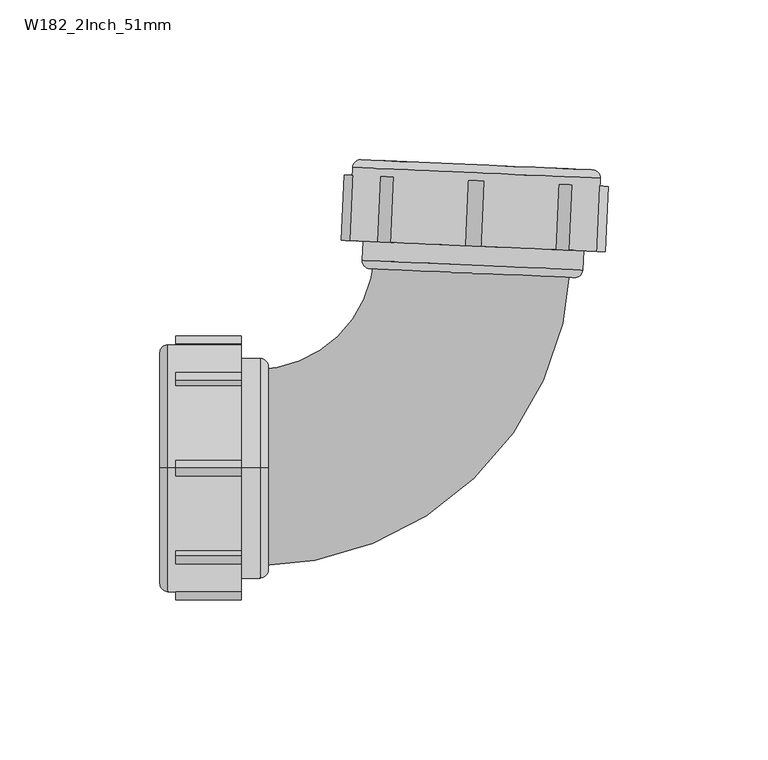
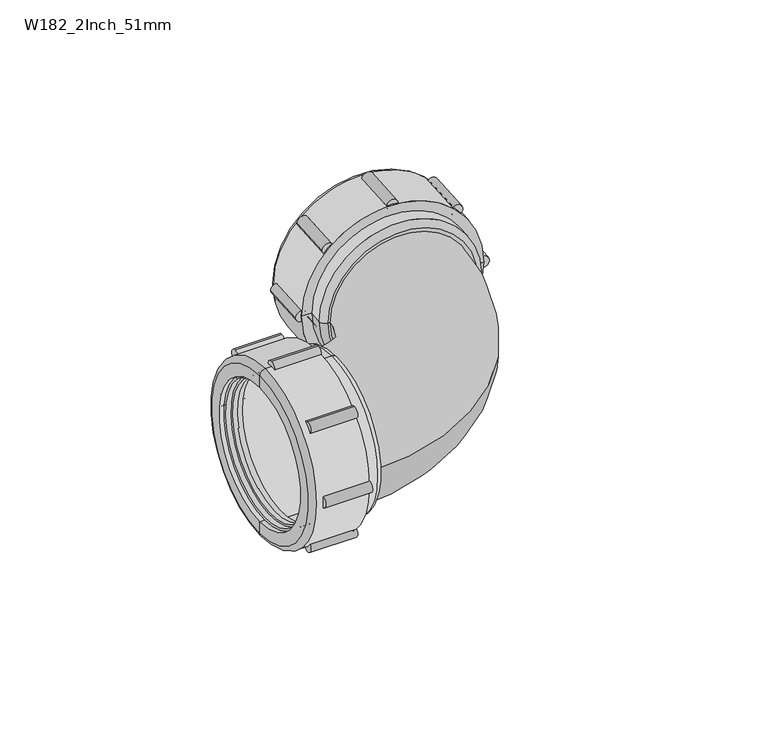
"""IFC4 building model written with IfcOpenShell, lengths in millimetres: pipe fitting geometry, Durapipe_PipeFitting_VulcatheneMechanical_92.5SweepBend_W18 : W182_2Inch_51mm."""

from ifc_helpers import new_model, si_unit, point, frame, frame_2d, origin, place, context, project, spatial, polyline, circle_curve, ellipse_curve, trimmed, segment, composite_curve, outline, extrude, source, transform, mapped, element, save
from ifc_brep_helpers import plane_surface, cylinder_surface, revolved_surface, advanced_brep


def w182_2inch_51mm_1cf541ef(model_context):
    return source(origin(), model_context, "Body", "SolidModel", [
        advanced_brep(
        [(-18.775034, 93.5910594, 22.839549), (26.8605877, 91.5985652, -22.839549), (25.3064334, 91.666421, -21.2839141), (-17.2208797, 93.5232036, 21.2839141), (-18.524799, 87.9747989, 22.3445743), (26.1218154, 86.0254856, -22.3445743), (-18.1620058, 86.5576252, 21.9203102), (25.636888, 84.6453242, -21.9203102), (25.6979552, 86.0439917, -21.9203102), (-18.1009387, 87.9562928, 21.9203102), (-17.1729986, 86.5144443, 20.9303607), (24.6478808, 84.6885052, -20.9303607), (-17.072674, 88.8122552, 20.9303607), (24.7482054, 86.9863161, -20.9303607), (-16.7901005, 88.7999177, 20.647518), (24.4656318, 86.9986536, -20.647518), (-17.3299282, 91.025583, 21.2839141), (25.1973849, 89.1688004, -21.2839141), (24.5615945, 89.1965597, -20.647518), (-16.6941378, 90.9978238, 20.647518)],
        [
            (0, 1, circle_curve(frame((4.0427768, 92.5948123, 0.0), z_axis=(0.043619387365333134, 0.9990482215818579, 0.0), x_axis=(0.7064337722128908, -0.030843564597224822, -0.7071067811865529)), 32.3)),
            (1, 2),
            (2, 3, circle_curve(frame((4.0427768, 92.5948123, 0.0), z_axis=(-0.043619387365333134, -0.9990482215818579, 0.0), x_axis=(0.7064337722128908, -0.030843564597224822, -0.7071067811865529)), 30.1)),
            (3, 0),
            (1, 0, circle_curve(frame((4.0427768, 92.5948123, 0.0), z_axis=(0.043619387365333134, 0.9990482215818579, 0.0), x_axis=(0.7064337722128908, -0.030843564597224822, -0.7071067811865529)), 32.3)),
            (3, 2, circle_curve(frame((4.0427768, 92.5948123, 0.0), z_axis=(-0.043619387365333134, -0.9990482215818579, 0.0), x_axis=(0.7064337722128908, -0.030843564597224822, -0.7071067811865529)), 30.1)),
            (4, 5, circle_curve(frame((3.7985082, 87.0001423, 0.0), z_axis=(0.043619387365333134, 0.9990482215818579, 0.0), x_axis=(0.7064337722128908, -0.030843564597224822, -0.7071067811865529)), 31.6)),
            (5, 1),
            (0, 4),
            (5, 4, circle_curve(frame((3.7985082, 87.0001423, 0.0), z_axis=(0.043619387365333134, 0.9990482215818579, 0.0), x_axis=(0.7064337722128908, -0.030843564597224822, -0.7071067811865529)), 31.6)),
            (6, 7, circle_curve(frame((3.7374411, 85.6014747, 0.0), z_axis=(0.043619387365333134, 0.9990482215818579, 0.0), x_axis=(0.7064337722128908, -0.030843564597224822, -0.7071067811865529)), 31.0)),
            (7, 8),
            (8, 9, circle_curve(frame((3.7985082, 87.0001423, 0.0), z_axis=(-0.043619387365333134, -0.9990482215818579, 0.0), x_axis=(0.7064337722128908, -0.030843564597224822, -0.7071067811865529)), 31.0)),
            (9, 6),
            (7, 6, circle_curve(frame((3.7374411, 85.6014747, 0.0), z_axis=(0.043619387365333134, 0.9990482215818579, 0.0), x_axis=(0.7064337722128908, -0.030843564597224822, -0.7071067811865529)), 31.0)),
            (9, 8, circle_curve(frame((3.7985082, 87.0001423, 0.0), z_axis=(-0.043619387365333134, -0.9990482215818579, 0.0), x_axis=(0.7064337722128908, -0.030843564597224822, -0.7071067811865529)), 31.0)),
            (6, 10),
            (10, 11, circle_curve(frame((3.7374411, 85.6014747, 0.0), z_axis=(0.043619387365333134, 0.9990482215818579, 0.0), x_axis=(0.7064337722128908, -0.030843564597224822, -0.7071067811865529)), 29.6)),
            (11, 7),
            (11, 10, circle_curve(frame((3.7374411, 85.6014747, 0.0), z_axis=(0.043619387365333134, 0.9990482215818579, 0.0), x_axis=(0.7064337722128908, -0.030843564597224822, -0.7071067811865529)), 29.6)),
            (10, 12),
            (12, 13, circle_curve(frame((3.8377657, 87.8992857, 0.0), z_axis=(0.043619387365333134, 0.9990482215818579, 0.0), x_axis=(0.7064337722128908, -0.030843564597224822, -0.7071067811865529)), 29.6)),
            (13, 11),
            (13, 12, circle_curve(frame((3.8377657, 87.8992857, 0.0), z_axis=(0.043619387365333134, 0.9990482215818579, 0.0), x_axis=(0.7064337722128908, -0.030843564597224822, -0.7071067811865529)), 29.6)),
            (12, 14),
            (14, 15, circle_curve(frame((3.8377657, 87.8992857, 0.0), z_axis=(0.043619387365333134, 0.9990482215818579, 0.0), x_axis=(0.7064337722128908, -0.030843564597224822, -0.7071067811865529)), 29.2)),
            (15, 13),
            (15, 14, circle_curve(frame((3.8377657, 87.8992857, 0.0), z_axis=(0.043619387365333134, 0.9990482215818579, 0.0), x_axis=(0.7064337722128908, -0.030843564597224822, -0.7071067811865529)), 29.2)),
            (16, 17, circle_curve(frame((3.9337283, 90.0971917, 0.0), z_axis=(0.043619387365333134, 0.9990482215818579, 0.0), x_axis=(0.7064337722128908, -0.030843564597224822, -0.7071067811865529)), 30.1)),
            (17, 18),
            (18, 19, circle_curve(frame((3.9337283, 90.0971917, 0.0), z_axis=(-0.043619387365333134, -0.9990482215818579, 0.0), x_axis=(0.7064337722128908, -0.030843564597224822, -0.7071067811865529)), 29.2)),
            (19, 16),
            (17, 16, circle_curve(frame((3.9337283, 90.0971917, 0.0), z_axis=(0.043619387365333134, 0.9990482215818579, 0.0), x_axis=(0.7064337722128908, -0.030843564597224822, -0.7071067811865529)), 30.1)),
            (19, 18, circle_curve(frame((3.9337283, 90.0971917, 0.0), z_axis=(-0.043619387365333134, -0.9990482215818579, 0.0), x_axis=(0.7064337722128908, -0.030843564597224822, -0.7071067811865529)), 29.2)),
            (2, 17),
            (16, 3),
            (14, 19),
            (18, 15),
            (4, 9),
            (8, 5),
        ],
        [
            plane_surface(frame((4.0427768, 92.5948123, 0.0), z_axis=(0.043619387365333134, 0.9990482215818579, 0.0), x_axis=(0.7064337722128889, -0.03084356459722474, -0.707106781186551))),
            revolved_surface(polyline([(26.8605877, 91.5985652, -22.839549), (26.1218154, 86.0254856, -22.3445743)]), (4.2608737, 97.5900534, 0.0), (-0.04361938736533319, -0.9990482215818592, 0.0)),
            cylinder_surface(frame((3.6471204, 83.5327898, 0.0), z_axis=(-0.04361938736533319, -0.9990482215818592, 0.0), x_axis=(0.7064337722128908, -0.030843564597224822, -0.7071067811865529)), 31.0),
            plane_surface(frame((3.7374411, 85.6014747, 0.0), z_axis=(-0.043619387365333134, -0.9990482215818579, 0.0), x_axis=(0.7064337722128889, -0.03084356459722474, -0.707106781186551))),
            revolved_surface(polyline([(24.647880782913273, 84.68850518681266, -20.930360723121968), (24.748205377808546, 86.98631618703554, -20.930360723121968)]), (3.585079, 82.1118083, 0.0), (-0.04361938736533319, -0.9990482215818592, 0.0)),
            plane_surface(frame((3.8377657, 87.8992857, 0.0), z_axis=(-0.043619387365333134, -0.9990482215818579, 0.0), x_axis=(0.7064337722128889, -0.03084356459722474, -0.707106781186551))),
            plane_surface(frame((3.9337283, 90.0971917, 0.0), z_axis=(0.043619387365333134, 0.9990482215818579, 0.0), x_axis=(0.7064337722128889, -0.03084356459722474, -0.707106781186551))),
            revolved_surface(polyline([(25.197384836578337, 89.16880040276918, -21.283914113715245), (25.306433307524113, 91.66642101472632, -21.283914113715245)]), (4.2608737, 97.5900534, 0.0), (-0.04361938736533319, -0.9990482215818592, 0.0)),
            revolved_surface(polyline([(24.46563186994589, 86.99865352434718, -20.647518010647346), (24.561594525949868, 89.19655969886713, -20.647518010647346)]), (4.1110932, 94.1595141, 0.0), (-0.04361938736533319, -0.9990482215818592, 0.0)),
            plane_surface(frame((3.7985082, 87.0001423, 0.0), z_axis=(-0.043619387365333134, -0.9990482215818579, 0.0), x_axis=(0.7064337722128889, -0.03084356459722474, -0.707106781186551))),
        ],
        [
            (0, [[1, 2, 3, 4]]),
            (0, [[-2, 5, -4, 6]]),
            (1, [[7, 8, -1, 9]]),
            (1, [[10, -9, -5, -8]]),
            (2, [[11, 12, 13, 14]]),
            (2, [[-12, 15, -14, 16]]),
            (3, [[-11, 17, 18, 19]]),
            (3, [[-15, -19, 20, -17]]),
            (4, [[21, 22, 23, -18]]),
            (4, [[-21, -20, -23, 24]]),
            (5, [[-22, 25, 26, 27]]),
            (5, [[-24, -27, 28, -25]]),
            (6, [[29, 30, 31, 32]]),
            (6, [[33, -32, 34, -30]]),
            (7, [[-3, 35, -29, 36]]),
            (7, [[-6, -36, -33, -35]]),
            (8, [[37, -31, 38, -26]]),
            (8, [[-37, -28, -38, -34]]),
            (9, [[-7, 39, -13, 40]]),
            (9, [[-10, -40, -16, -39]]),
        ],
    ),
        advanced_brep(
        [(-35.727902, 71.2092306, 0.0), (41.79824, 67.8243661, 0.0), (42.7971239, 90.7025704, 0.0), (-34.7290181, 94.0874349, 0.0), (-31.4319947, 71.0216672, 0.0), (37.5023326, 68.0119295, 0.0), (-32.122349, 96.476007, 0.0), (40.4085518, 93.3092394, 0.0), (35.1135963, 93.5404222, 0.0), (-26.8273935, 96.2448242, 0.0), (-28.9258145, 94.0342521, 0.0), (37.0113681, 91.1553725, 0.0), (35.8205589, 63.8813561, 0.0), (-30.1166238, 66.7602356, 0.0), (-26.9277181, 93.9470133, 0.0), (35.0132717, 91.2426113, 0.0), (-31.693711, 65.0273779, 0.0), (37.2406163, 62.0176402, 0.0), (-29.3051389, 62.4207089, 0.0), (34.6339473, 59.6290681, 0.0), (2.6644042, 61.0248885, 0.0), (2.8519675, 65.3207958, 0.0)],
        [
            (0, 1, circle_curve(frame((3.035169, 69.5167984, 0.0), z_axis=(0.0436193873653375, 0.9990482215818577, 0.0), x_axis=(0.9990482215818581, -0.04361938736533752, 0.0)), 38.8)),
            (1, 2),
            (2, 3, circle_curve(frame((4.0340529, 92.3950026, 0.0), z_axis=(-0.0436193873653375, -0.9990482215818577, 0.0), x_axis=(0.9990482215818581, -0.04361938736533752, 0.0)), 38.8)),
            (3, 0),
            (1, 0, circle_curve(frame((3.035169, 69.5167984, 0.0), z_axis=(0.0436193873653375, 0.9990482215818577, 0.0), x_axis=(0.9990482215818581, -0.04361938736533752, 0.0)), 38.8)),
            (3, 2, circle_curve(frame((4.0340529, 92.3950026, 0.0), z_axis=(-0.0436193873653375, -0.9990482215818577, 0.0), x_axis=(0.9990482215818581, -0.04361938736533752, 0.0)), 38.8)),
            (4, 5, circle_curve(frame((3.035169, 69.5167984, 0.0), z_axis=(0.0436193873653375, 0.9990482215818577, 0.0), x_axis=(0.9990482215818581, -0.04361938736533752, 0.0)), 34.5)),
            (5, 1),
            (0, 4),
            (5, 4, circle_curve(frame((3.035169, 69.5167984, 0.0), z_axis=(0.0436193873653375, 0.9990482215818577, 0.0), x_axis=(0.9990482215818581, -0.04361938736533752, 0.0)), 34.5)),
            (6, 7, circle_curve(frame((4.1431014, 94.8926232, 0.0), z_axis=(0.0436193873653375, 0.9990482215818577, 0.0), x_axis=(0.9990482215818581, -0.04361938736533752, 0.0)), 36.3)),
            (7, 8),
            (8, 9, circle_curve(frame((4.1431014, 94.8926232, 0.0), z_axis=(-0.0436193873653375, -0.9990482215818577, 0.0), x_axis=(0.9990482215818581, -0.04361938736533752, 0.0)), 31.0)),
            (9, 6),
            (7, 6, circle_curve(frame((4.1431014, 94.8926232, 0.0), z_axis=(0.0436193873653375, 0.9990482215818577, 0.0), x_axis=(0.9990482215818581, -0.04361938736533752, 0.0)), 36.3)),
            (9, 8, circle_curve(frame((4.1431014, 94.8926232, 0.0), z_axis=(-0.0436193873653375, -0.9990482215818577, 0.0), x_axis=(0.9990482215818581, -0.04361938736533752, 0.0)), 31.0)),
            (2, 7, circle_curve(frame((40.2995034, 90.8116189, 0.0), z_axis=(0.0, 0.0, 1.0000000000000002), x_axis=(0.043619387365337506, 0.9990482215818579, 0.0)), 2.5)),
            (6, 3, circle_curve(frame((-32.2313975, 93.9783864, 0.0), z_axis=(0.0, 0.0, 1.0000000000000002), x_axis=(0.043619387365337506, 0.9990482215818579, 0.0)), 2.5)),
            (10, 11, circle_curve(frame((4.0427768, 92.5948123, 0.0), z_axis=(0.0436193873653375, 0.9990482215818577, 0.0), x_axis=(0.9990482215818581, -0.04361938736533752, 0.0)), 33.0)),
            (11, 12),
            (12, 13, circle_curve(frame((2.8519675, 65.3207958, 0.0), z_axis=(-0.0436193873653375, -0.9990482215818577, 0.0), x_axis=(0.9990482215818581, -0.04361938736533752, 0.0)), 33.0)),
            (13, 10),
            (11, 10, circle_curve(frame((4.0427768, 92.5948123, 0.0), z_axis=(0.0436193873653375, 0.9990482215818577, 0.0), x_axis=(0.9990482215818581, -0.04361938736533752, 0.0)), 33.0)),
            (13, 12, circle_curve(frame((2.8519675, 65.3207958, 0.0), z_axis=(-0.0436193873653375, -0.9990482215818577, 0.0), x_axis=(0.9990482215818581, -0.04361938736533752, 0.0)), 33.0)),
            (14, 15, circle_curve(frame((4.0427768, 92.5948123, 0.0), z_axis=(0.0436193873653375, 0.9990482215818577, 0.0), x_axis=(0.9990482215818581, -0.04361938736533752, 0.0)), 31.0)),
            (15, 11),
            (10, 14),
            (15, 14, circle_curve(frame((4.0427768, 92.5948123, 0.0), z_axis=(0.0436193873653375, 0.9990482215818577, 0.0), x_axis=(0.9990482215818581, -0.04361938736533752, 0.0)), 31.0)),
            (8, 15),
            (14, 9),
            (16, 17, circle_curve(frame((2.7734526, 63.522509, 0.0), z_axis=(0.0436193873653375, 0.9990482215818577, 0.0), x_axis=(0.9990482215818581, -0.04361938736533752, 0.0)), 34.5)),
            (17, 5),
            (4, 16),
            (17, 16, circle_curve(frame((2.7734526, 63.522509, 0.0), z_axis=(0.0436193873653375, 0.9990482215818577, 0.0), x_axis=(0.9990482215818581, -0.04361938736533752, 0.0)), 34.5)),
            (18, 19, circle_curve(frame((2.6644042, 61.0248885, 0.0), z_axis=(0.0436193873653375, 0.9990482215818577, 0.0), x_axis=(0.9990482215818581, -0.04361938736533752, 0.0)), 32.0)),
            (19, 17, circle_curve(frame((34.7429957, 62.1266886, 0.0), z_axis=(0.0, 0.0, 1.0000000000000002), x_axis=(0.043619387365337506, 0.9990482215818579, 0.0)), 2.5)),
            (16, 18, circle_curve(frame((-29.1960904, 64.9183294, 0.0), z_axis=(0.0, 0.0, 1.0000000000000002), x_axis=(0.043619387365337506, 0.9990482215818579, 0.0)), 2.5)),
            (19, 18, circle_curve(frame((2.6644042, 61.0248885, 0.0), z_axis=(0.0436193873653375, 0.9990482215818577, 0.0), x_axis=(0.9990482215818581, -0.04361938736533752, 0.0)), 32.0)),
            (20, 19),
            (18, 20),
            (12, 21),
            (21, 13),
        ],
        [
            cylinder_surface(frame((72.2243205, 1654.2089041, 0.0), z_axis=(-0.043619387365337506, -0.9990482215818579, 0.0), x_axis=(0.9990482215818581, -0.04361938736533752, 0.0)), 38.8),
            plane_surface(frame((3.035169, 69.5167984, 0.0), z_axis=(-0.0436193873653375, -0.9990482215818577, 0.0), x_axis=(0.9990482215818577, -0.0436193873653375, 0.0))),
            plane_surface(frame((4.1431014, 94.8926232, 0.0), z_axis=(0.0436193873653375, 0.9990482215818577, 0.0), x_axis=(0.9990482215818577, -0.0436193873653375, 0.0))),
            revolved_surface(trimmed(ellipse_curve(frame((40.2995034, 90.8116189, 0.0), z_axis=(0.0, 0.0, -1.0000000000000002), x_axis=(0.043619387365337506, 0.9990482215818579, 0.0)), 2.5, 2.5), [point((40.4085518, 93.3092394, 0.0))], [point((42.7971239, 90.7025704, 0.0))], True, "CARTESIAN"), (72.2243205, 1654.2089041, 0.0), (-0.043619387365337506, -0.9990482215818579, 0.0)),
            revolved_surface(polyline([(35.82055882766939, 63.88135601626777, 0.0), (37.011368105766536, 91.15537253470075, 0.0)]), (72.2243205, 1654.2089041, 0.0), (-0.043619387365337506, -0.9990482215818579, 0.0)),
            plane_surface(frame((4.0427768, 92.5948123, 0.0), z_axis=(-0.0436193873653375, -0.9990482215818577, 0.0), x_axis=(0.9990482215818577, -0.0436193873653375, 0.0))),
            revolved_surface(polyline([(35.01327166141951, 91.24261128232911, 0.0), (35.11359625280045, 93.5404222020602, 0.0)]), (72.2243205, 1654.2089041, 0.0), (-0.043619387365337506, -0.9990482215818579, 0.0)),
            cylinder_surface(frame((72.2243205, 1654.2089041, 0.0), z_axis=(-0.043619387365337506, -0.9990482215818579, 0.0), x_axis=(0.9990482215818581, -0.04361938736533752, 0.0)), 34.5),
            revolved_surface(trimmed(ellipse_curve(frame((34.7429957, 62.1266886, 0.0), z_axis=(0.0, 0.0, -1.0000000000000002), x_axis=(0.043619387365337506, 0.9990482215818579, 0.0)), 2.5, 2.5), [point((37.2406163, 62.0176402, 0.0))], [point((34.6339473, 59.6290681, 0.0))], True, "CARTESIAN"), (72.2243205, 1654.2089041, 0.0), (-0.043619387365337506, -0.9990482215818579, 0.0)),
            plane_surface(frame((2.6644042, 61.0248885, 0.0), z_axis=(-0.0436193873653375, -0.9990482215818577, 0.0), x_axis=(0.9990482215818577, -0.0436193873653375, 0.0))),
            plane_surface(frame((2.8519675, 65.3207958, 0.0), z_axis=(0.0436193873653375, 0.9990482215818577, 0.0), x_axis=(0.9990482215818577, -0.0436193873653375, 0.0))),
        ],
        [
            (0, [[1, 2, 3, 4]]),
            (0, [[5, -4, 6, -2]]),
            (1, [[7, 8, -1, 9]]),
            (1, [[10, -9, -5, -8]]),
            (2, [[11, 12, 13, 14]]),
            (2, [[15, -14, 16, -12]]),
            (3, [[-3, 17, -11, 18]]),
            (3, [[-6, -18, -15, -17]]),
            (4, [[19, 20, 21, 22]]),
            (4, [[23, -22, 24, -20]]),
            (5, [[25, 26, -19, 27]]),
            (5, [[28, -27, -23, -26]]),
            (6, [[-13, 29, -25, 30]]),
            (6, [[-16, -30, -28, -29]]),
            (7, [[31, 32, -7, 33]]),
            (7, [[34, -33, -10, -32]]),
            (8, [[35, 36, -31, 37]]),
            (8, [[38, -37, -34, -36]]),
            (9, [[39, -35, 40]]),
            (9, [[-40, -38, -39]]),
            (10, [[-21, 41, 42]]),
            (10, [[-24, -42, -41]]),
        ],
    ),
        extrude(outline(composite_curve([segment(trimmed(circle_curve(frame_2d((0.0, -2.4999999)), 2.5), [point((0.0, -5.0))], [point((0.0, 0.0))], False, "CARTESIAN"), True, "CONTINUOUS"), segment(trimmed(circle_curve(frame_2d((0.0, -2.4999999)), 2.5), [point((0.0, 0.0))], [point((0.0, -5.0))], False, "CARTESIAN"), True, "CONTINUOUS")], self_intersect=False)), frame((5.5327895, 69.4077499, -38.8), z_axis=(0.0436193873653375, 0.9990482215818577, 0.0), x_axis=(0.0, 0.0, 1.0)), (0.0, 0.0, 1.0), 20.4),
        extrude(outline(composite_curve([segment(trimmed(circle_curve(frame_2d((11.3642569, 24.9357431)), 2.5), [point((11.3642569, 22.4357432))], [point((11.3642569, 27.4357431))], False, "CARTESIAN"), True, "CONTINUOUS"), segment(trimmed(circle_curve(frame_2d((11.3642569, 24.9357431)), 2.5), [point((11.3642569, 27.4357431))], [point((11.3642569, 22.4357432))], False, "CARTESIAN"), True, "CONTINUOUS")], self_intersect=False)), frame((5.5327895, 69.4077499, -38.8), z_axis=(0.0436193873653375, 0.9990482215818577, 0.0), x_axis=(0.0, 0.0, 1.0)), (0.0, 0.0, 1.0), 20.4),
        extrude(outline(composite_curve([segment(trimmed(circle_curve(frame_2d((38.8, 36.3000001)), 2.5), [point((38.8, 33.8))], [point((38.8, 38.8))], False, "CARTESIAN"), True, "CONTINUOUS"), segment(trimmed(circle_curve(frame_2d((38.8, 36.3000001)), 2.5), [point((38.8, 38.8))], [point((38.8, 33.8))], False, "CARTESIAN"), True, "CONTINUOUS")], self_intersect=False)), frame((5.5327895, 69.4077499, -38.8), z_axis=(0.0436193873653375, 0.9990482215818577, 0.0), x_axis=(0.0, 0.0, 1.0)), (0.0, 0.0, 1.0), 20.4),
        extrude(outline(composite_curve([segment(trimmed(circle_curve(frame_2d((66.2357431, 24.9357431)), 2.5), [point((66.2357431, 22.4357432))], [point((66.2357431, 27.4357431))], False, "CARTESIAN"), True, "CONTINUOUS"), segment(trimmed(circle_curve(frame_2d((66.2357431, 24.9357431)), 2.5), [point((66.2357431, 27.4357431))], [point((66.2357431, 22.4357432))], False, "CARTESIAN"), True, "CONTINUOUS")], self_intersect=False)), frame((5.5327895, 69.4077499, -38.8), z_axis=(0.0436193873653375, 0.9990482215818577, 0.0), x_axis=(0.0, 0.0, 1.0)), (0.0, 0.0, 1.0), 20.4),
        extrude(outline(composite_curve([segment(trimmed(circle_curve(frame_2d((77.6, -2.4999999)), 2.5), [point((77.6, -5.0))], [point((77.6, 0.0))], False, "CARTESIAN"), True, "CONTINUOUS"), segment(trimmed(circle_curve(frame_2d((77.6, -2.4999999)), 2.5), [point((77.6, 0.0))], [point((77.6, -5.0))], False, "CARTESIAN"), True, "CONTINUOUS")], self_intersect=False)), frame((5.5327895, 69.4077499, -38.8), z_axis=(0.0436193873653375, 0.9990482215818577, 0.0), x_axis=(0.0, 0.0, 1.0)), (0.0, 0.0, 1.0), 20.4),
        extrude(outline(composite_curve([segment(trimmed(circle_curve(frame_2d((66.2357431, -29.9357431)), 2.5), [point((66.2357431, -32.4357431))], [point((66.2357431, -27.435743))], False, "CARTESIAN"), True, "CONTINUOUS"), segment(trimmed(circle_curve(frame_2d((66.2357431, -29.9357431)), 2.5), [point((66.2357431, -27.435743))], [point((66.2357431, -32.4357431))], False, "CARTESIAN"), True, "CONTINUOUS")], self_intersect=False)), frame((5.5327895, 69.4077499, -38.8), z_axis=(0.0436193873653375, 0.9990482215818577, 0.0), x_axis=(0.0, 0.0, 1.0)), (0.0, 0.0, 1.0), 20.4),
        extrude(outline(composite_curve([segment(trimmed(circle_curve(frame_2d((38.8, -41.2999999)), 2.5), [point((38.8, -43.8))], [point((38.8, -38.8))], False, "CARTESIAN"), True, "CONTINUOUS"), segment(trimmed(circle_curve(frame_2d((38.8, -41.2999999)), 2.5), [point((38.8, -38.8))], [point((38.8, -43.8))], False, "CARTESIAN"), True, "CONTINUOUS")], self_intersect=False)), frame((5.5327895, 69.4077499, -38.8), z_axis=(0.0436193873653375, 0.9990482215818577, 0.0), x_axis=(0.0, 0.0, 1.0)), (0.0, 0.0, 1.0), 20.4),
        extrude(outline(composite_curve([segment(trimmed(circle_curve(frame_2d((11.3642569, -29.9357431)), 2.5), [point((11.3642569, -32.4357431))], [point((11.3642569, -27.435743))], False, "CARTESIAN"), True, "CONTINUOUS"), segment(trimmed(circle_curve(frame_2d((11.3642569, -29.9357431)), 2.5), [point((11.3642569, -27.435743))], [point((11.3642569, -32.4357431))], False, "CARTESIAN"), True, "CONTINUOUS")], self_intersect=False)), frame((5.5327895, 69.4077499, -38.8), z_axis=(0.0436193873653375, 0.9990482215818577, 0.0), x_axis=(0.0, 0.0, 1.0)), (0.0, 0.0, 1.0), 20.4),
        advanced_brep(
        [(-92.683026, -22.839549, -22.839549), (-92.683026, 22.839549, 22.839549), (-92.683026, 21.2839141, 21.2839141), (-92.683026, -21.2839141, -21.2839141), (-87.083026, -22.3445743, -22.3445743), (-87.083026, 22.3445743, 22.3445743), (-85.683026, -21.9203102, -21.9203102), (-85.683026, 21.9203102, 21.9203102), (-87.083026, 21.9203102, 21.9203102), (-87.083026, -21.9203102, -21.9203102), (-85.683026, -20.9303607, -20.9303607), (-85.683026, 20.9303607, 20.9303607), (-87.983026, -20.9303607, -20.9303607), (-87.983026, 20.9303607, 20.9303607), (-87.983026, -20.647518, -20.647518), (-87.983026, 20.647518, 20.647518), (-90.183026, -21.2839141, -21.2839141), (-90.183026, 21.2839141, 21.2839141), (-90.183026, 20.647518, 20.647518), (-90.183026, -20.647518, -20.647518)],
        [
            (0, 1, circle_curve(frame((-92.683026, 0.0, 0.0), z_axis=(-1.0, 0.0, 0.0), x_axis=(0.0, 0.7071067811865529, 0.7071067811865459)), 32.3)),
            (1, 2),
            (2, 3, circle_curve(frame((-92.683026, 0.0, 0.0), z_axis=(1.0, 0.0, 0.0), x_axis=(0.0, 0.7071067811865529, 0.7071067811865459)), 30.1)),
            (3, 0),
            (1, 0, circle_curve(frame((-92.683026, 0.0, 0.0), z_axis=(-1.0, 0.0, 0.0), x_axis=(0.0, 0.7071067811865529, 0.7071067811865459)), 32.3)),
            (3, 2, circle_curve(frame((-92.683026, 0.0, 0.0), z_axis=(1.0, 0.0, 0.0), x_axis=(0.0, 0.7071067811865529, 0.7071067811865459)), 30.1)),
            (4, 5, circle_curve(frame((-87.083026, 0.0, 0.0), z_axis=(-1.0, 0.0, 0.0), x_axis=(0.0, 0.7071067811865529, 0.7071067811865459)), 31.6)),
            (5, 1),
            (0, 4),
            (5, 4, circle_curve(frame((-87.083026, 0.0, 0.0), z_axis=(-1.0, 0.0, 0.0), x_axis=(0.0, 0.7071067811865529, 0.7071067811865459)), 31.6)),
            (6, 7, circle_curve(frame((-85.683026, 0.0, 0.0), z_axis=(-1.0, 0.0, 0.0), x_axis=(0.0, 0.7071067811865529, 0.7071067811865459)), 31.0)),
            (7, 8),
            (8, 9, circle_curve(frame((-87.083026, 0.0, 0.0), z_axis=(1.0, 0.0, 0.0), x_axis=(0.0, 0.7071067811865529, 0.7071067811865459)), 31.0)),
            (9, 6),
            (7, 6, circle_curve(frame((-85.683026, 0.0, 0.0), z_axis=(-1.0, 0.0, 0.0), x_axis=(0.0, 0.7071067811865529, 0.7071067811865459)), 31.0)),
            (9, 8, circle_curve(frame((-87.083026, 0.0, 0.0), z_axis=(1.0, 0.0, 0.0), x_axis=(0.0, 0.7071067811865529, 0.7071067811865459)), 31.0)),
            (6, 10),
            (10, 11, circle_curve(frame((-85.683026, 0.0, 0.0), z_axis=(-1.0, 0.0, 0.0), x_axis=(0.0, 0.7071067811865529, 0.7071067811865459)), 29.6)),
            (11, 7),
            (11, 10, circle_curve(frame((-85.683026, 0.0, 0.0), z_axis=(-1.0, 0.0, 0.0), x_axis=(0.0, 0.7071067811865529, 0.7071067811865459)), 29.6)),
            (10, 12),
            (12, 13, circle_curve(frame((-87.983026, 0.0, 0.0), z_axis=(-1.0, 0.0, 0.0), x_axis=(0.0, 0.7071067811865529, 0.7071067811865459)), 29.6)),
            (13, 11),
            (13, 12, circle_curve(frame((-87.983026, 0.0, 0.0), z_axis=(-1.0, 0.0, 0.0), x_axis=(0.0, 0.7071067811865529, 0.7071067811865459)), 29.6)),
            (12, 14),
            (14, 15, circle_curve(frame((-87.983026, 0.0, 0.0), z_axis=(-1.0, 0.0, 0.0), x_axis=(0.0, 0.7071067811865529, 0.7071067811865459)), 29.2)),
            (15, 13),
            (15, 14, circle_curve(frame((-87.983026, 0.0, 0.0), z_axis=(-1.0, 0.0, 0.0), x_axis=(0.0, 0.7071067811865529, 0.7071067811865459)), 29.2)),
            (16, 17, circle_curve(frame((-90.183026, 0.0, 0.0), z_axis=(-1.0, 0.0, 0.0), x_axis=(0.0, 0.7071067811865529, 0.7071067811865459)), 30.1)),
            (17, 18),
            (18, 19, circle_curve(frame((-90.183026, 0.0, 0.0), z_axis=(1.0, 0.0, 0.0), x_axis=(0.0, 0.7071067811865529, 0.7071067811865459)), 29.2)),
            (19, 16),
            (17, 16, circle_curve(frame((-90.183026, 0.0, 0.0), z_axis=(-1.0, 0.0, 0.0), x_axis=(0.0, 0.7071067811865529, 0.7071067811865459)), 30.1)),
            (19, 18, circle_curve(frame((-90.183026, 0.0, 0.0), z_axis=(1.0, 0.0, 0.0), x_axis=(0.0, 0.7071067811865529, 0.7071067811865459)), 29.2)),
            (2, 17),
            (16, 3),
            (14, 19),
            (18, 15),
            (4, 9),
            (8, 5),
        ],
        [
            plane_surface(frame((-92.683026, 0.0, 0.0), z_axis=(-1.0, 0.0, 0.0), x_axis=(0.0, 0.707106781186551, 0.707106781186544))),
            revolved_surface(polyline([(-92.683026, 22.839549, 22.839549), (-87.083026, 22.3445743, 22.3445743)]), (-97.683026, 0.0, 0.0), (1.0000000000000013, 0.0, 0.0)),
            cylinder_surface(frame((-83.6123703, 0.0, 0.0), z_axis=(1.0000000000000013, 0.0, 0.0), x_axis=(0.0, 0.7071067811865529, 0.7071067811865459)), 31.0),
            plane_surface(frame((-85.683026, 0.0, 0.0), z_axis=(1.0, 0.0, 0.0), x_axis=(0.0, 0.707106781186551, 0.707106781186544))),
            revolved_surface(polyline([(-85.68302600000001, 20.930360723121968, 20.93036072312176), (-87.98302600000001, 20.930360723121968, 20.93036072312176)]), (-82.190035, 0.0, 0.0), (1.0000000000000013, 0.0, 0.0)),
            plane_surface(frame((-87.983026, 0.0, 0.0), z_axis=(1.0, 0.0, 0.0), x_axis=(0.0, 0.707106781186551, 0.707106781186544))),
            plane_surface(frame((-90.183026, 0.0, 0.0), z_axis=(-1.0, 0.0, 0.0), x_axis=(0.0, 0.707106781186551, 0.707106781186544))),
            revolved_surface(polyline([(-90.18302599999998, 21.283914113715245, 21.28391411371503), (-92.68302599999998, 21.283914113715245, 21.28391411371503)]), (-97.683026, 0.0, 0.0), (1.0000000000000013, 0.0, 0.0)),
            revolved_surface(polyline([(-87.98302599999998, 20.647518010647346, 20.64751801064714), (-90.18302599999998, 20.647518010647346, 20.64751801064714)]), (-94.2492184, 0.0, 0.0), (1.0000000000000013, 0.0, 0.0)),
            plane_surface(frame((-87.083026, 0.0, 0.0), z_axis=(1.0, 0.0, 0.0), x_axis=(0.0, 0.707106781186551, 0.707106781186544))),
        ],
        [
            (0, [[1, 2, 3, 4]]),
            (0, [[-2, 5, -4, 6]]),
            (1, [[7, 8, -1, 9]]),
            (1, [[10, -9, -5, -8]]),
            (2, [[11, 12, 13, 14]]),
            (2, [[-12, 15, -14, 16]]),
            (3, [[-11, 17, 18, 19]]),
            (3, [[-15, -19, 20, -17]]),
            (4, [[21, 22, 23, -18]]),
            (4, [[-21, -20, -23, 24]]),
            (5, [[-22, 25, 26, 27]]),
            (5, [[-24, -27, 28, -25]]),
            (6, [[29, 30, 31, 32]]),
            (6, [[33, -32, 34, -30]]),
            (7, [[-3, 35, -29, 36]]),
            (7, [[-6, -36, -33, -35]]),
            (8, [[37, -31, 38, -26]]),
            (8, [[-37, -28, -38, -34]]),
            (9, [[-7, 39, -13, 40]]),
            (9, [[-10, -40, -16, -39]]),
        ],
    ),
        advanced_brep(
        [(-69.583026, 0.0, -38.8), (-69.583026, 0.0, 38.8), (-92.483026, 0.0, 38.8), (-92.483026, 0.0, -38.8), (-69.583026, 0.0, -34.5), (-69.583026, 0.0, 34.5), (-94.983026, 0.0, -36.3), (-94.983026, 0.0, 36.3), (-94.983026, 0.0, 31.0), (-94.983026, 0.0, -31.0), (-92.683026, 0.0, -33.0), (-92.683026, 0.0, 33.0), (-65.383026, 0.0, 33.0), (-65.383026, 0.0, -33.0), (-92.683026, 0.0, -31.0), (-92.683026, 0.0, 31.0), (-63.583026, 0.0, -34.5), (-63.583026, 0.0, 34.5), (-61.083026, 0.0, -32.0), (-61.083026, 0.0, 32.0), (-61.083026, 0.0, 0.0), (-65.383026, 0.0, 0.0)],
        [
            (0, 1, circle_curve(frame((-69.583026, 0.0, 0.0), z_axis=(-1.0, 0.0, 0.0), x_axis=(0.0, 0.0, 1.0000000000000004)), 38.8)),
            (1, 2),
            (2, 3, circle_curve(frame((-92.483026, 0.0, 0.0), z_axis=(1.0, 0.0, 0.0), x_axis=(0.0, 0.0, 1.0000000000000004)), 38.8)),
            (3, 0),
            (1, 0, circle_curve(frame((-69.583026, 0.0, 0.0), z_axis=(-1.0, 0.0, 0.0), x_axis=(0.0, 0.0, 1.0000000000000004)), 38.8)),
            (3, 2, circle_curve(frame((-92.483026, 0.0, 0.0), z_axis=(1.0, 0.0, 0.0), x_axis=(0.0, 0.0, 1.0000000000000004)), 38.8)),
            (4, 5, circle_curve(frame((-69.583026, 0.0, 0.0), z_axis=(-1.0, 0.0, 0.0), x_axis=(0.0, 0.0, 1.0000000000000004)), 34.5)),
            (5, 1),
            (0, 4),
            (5, 4, circle_curve(frame((-69.583026, 0.0, 0.0), z_axis=(-1.0, 0.0, 0.0), x_axis=(0.0, 0.0, 1.0000000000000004)), 34.5)),
            (6, 7, circle_curve(frame((-94.983026, 0.0, 0.0), z_axis=(-1.0, 0.0, 0.0), x_axis=(0.0, 0.0, 1.0000000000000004)), 36.3)),
            (7, 8),
            (8, 9, circle_curve(frame((-94.983026, 0.0, 0.0), z_axis=(1.0, 0.0, 0.0), x_axis=(0.0, 0.0, 1.0000000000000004)), 31.0)),
            (9, 6),
            (7, 6, circle_curve(frame((-94.983026, 0.0, 0.0), z_axis=(-1.0, 0.0, 0.0), x_axis=(0.0, 0.0, 1.0000000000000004)), 36.3)),
            (9, 8, circle_curve(frame((-94.983026, 0.0, 0.0), z_axis=(1.0, 0.0, 0.0), x_axis=(0.0, 0.0, 1.0000000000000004)), 31.0)),
            (2, 7, circle_curve(frame((-92.483026, 0.0, 36.3), z_axis=(0.0, -1.0000000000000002, 0.0), x_axis=(-1.0000000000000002, 0.0, 0.0)), 2.5)),
            (6, 3, circle_curve(frame((-92.483026, 0.0, -36.3), z_axis=(0.0, -1.0000000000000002, 0.0), x_axis=(-1.0000000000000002, 0.0, 0.0)), 2.5)),
            (10, 11, circle_curve(frame((-92.683026, 0.0, 0.0), z_axis=(-1.0, 0.0, 0.0), x_axis=(0.0, 0.0, 1.0000000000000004)), 33.0)),
            (11, 12),
            (12, 13, circle_curve(frame((-65.383026, 0.0, 0.0), z_axis=(1.0, 0.0, 0.0), x_axis=(0.0, 0.0, 1.0000000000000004)), 33.0)),
            (13, 10),
            (11, 10, circle_curve(frame((-92.683026, 0.0, 0.0), z_axis=(-1.0, 0.0, 0.0), x_axis=(0.0, 0.0, 1.0000000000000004)), 33.0)),
            (13, 12, circle_curve(frame((-65.383026, 0.0, 0.0), z_axis=(1.0, 0.0, 0.0), x_axis=(0.0, 0.0, 1.0000000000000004)), 33.0)),
            (14, 15, circle_curve(frame((-92.683026, 0.0, 0.0), z_axis=(-1.0, 0.0, 0.0), x_axis=(0.0, 0.0, 1.0000000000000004)), 31.0)),
            (15, 11),
            (10, 14),
            (15, 14, circle_curve(frame((-92.683026, 0.0, 0.0), z_axis=(-1.0, 0.0, 0.0), x_axis=(0.0, 0.0, 1.0000000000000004)), 31.0)),
            (8, 15),
            (14, 9),
            (16, 17, circle_curve(frame((-63.583026, 0.0, 0.0), z_axis=(-1.0, 0.0, 0.0), x_axis=(0.0, 0.0, 1.0000000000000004)), 34.5)),
            (17, 5),
            (4, 16),
            (17, 16, circle_curve(frame((-63.583026, 0.0, 0.0), z_axis=(-1.0, 0.0, 0.0), x_axis=(0.0, 0.0, 1.0000000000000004)), 34.5)),
            (18, 19, circle_curve(frame((-61.083026, 0.0, 0.0), z_axis=(-1.0, 0.0, 0.0), x_axis=(0.0, 0.0, 1.0000000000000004)), 32.0)),
            (19, 17, circle_curve(frame((-63.583026, 0.0, 32.0), z_axis=(0.0, -1.0000000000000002, 0.0), x_axis=(-1.0000000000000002, 0.0, 0.0)), 2.5)),
            (16, 18, circle_curve(frame((-63.583026, 0.0, -32.0), z_axis=(0.0, -1.0000000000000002, 0.0), x_axis=(-1.0000000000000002, 0.0, 0.0)), 2.5)),
            (19, 18, circle_curve(frame((-61.083026, 0.0, 0.0), z_axis=(-1.0, 0.0, 0.0), x_axis=(0.0, 0.0, 1.0000000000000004)), 32.0)),
            (20, 19),
            (18, 20),
            (12, 21),
            (21, 13),
        ],
        [
            cylinder_surface(frame((-1655.7848444, 0.0, 0.0), z_axis=(1.0000000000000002, 0.0, 0.0), x_axis=(0.0, 0.0, 1.0000000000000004)), 38.8),
            plane_surface(frame((-69.583026, 0.0, 0.0), z_axis=(1.0, 0.0, 0.0), x_axis=(0.0, 0.0, 1.0))),
            plane_surface(frame((-94.983026, 0.0, 0.0), z_axis=(-1.0, 0.0, 0.0), x_axis=(0.0, 0.0, 1.0))),
            revolved_surface(trimmed(ellipse_curve(frame((-92.483026, 0.0, 36.3), z_axis=(0.0, 1.0000000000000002, 0.0), x_axis=(-1.0000000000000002, 0.0, 0.0)), 2.5, 2.5), [point((-94.983026, 0.0, 36.3))], [point((-92.483026, 0.0, 38.8))], True, "CARTESIAN"), (-1655.7848444, 0.0, 0.0), (1.0000000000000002, 0.0, 0.0)),
            revolved_surface(polyline([(-65.38302599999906, 0.0, 33.000000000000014), (-92.68302599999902, 0.0, 33.000000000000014)]), (-1655.7848444, 0.0, 0.0), (1.0000000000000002, 0.0, 0.0)),
            plane_surface(frame((-92.683026, 0.0, 0.0), z_axis=(1.0, 0.0, 0.0), x_axis=(0.0, 0.0, 1.0))),
            revolved_surface(polyline([(-92.68302599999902, 0.0, 31.000000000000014), (-94.98302599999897, 0.0, 31.000000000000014)]), (-1655.7848444, 0.0, 0.0), (1.0000000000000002, 0.0, 0.0)),
            cylinder_surface(frame((-1655.7848444, 0.0, 0.0), z_axis=(1.0000000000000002, 0.0, 0.0), x_axis=(0.0, 0.0, 1.0000000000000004)), 34.5),
            revolved_surface(trimmed(ellipse_curve(frame((-63.583026, 0.0, 32.0), z_axis=(0.0, 1.0000000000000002, 0.0), x_axis=(-1.0000000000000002, 0.0, 0.0)), 2.5, 2.5), [point((-63.583026, 0.0, 34.5))], [point((-61.083026, 0.0, 32.0))], True, "CARTESIAN"), (-1655.7848444, 0.0, 0.0), (1.0000000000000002, 0.0, 0.0)),
            plane_surface(frame((-61.083026, 0.0, 0.0), z_axis=(1.0, 0.0, 0.0), x_axis=(0.0, 0.0, 1.0))),
            plane_surface(frame((-65.383026, 0.0, 0.0), z_axis=(-1.0, 0.0, 0.0), x_axis=(0.0, 0.0, 1.0))),
        ],
        [
            (0, [[1, 2, 3, 4]]),
            (0, [[5, -4, 6, -2]]),
            (1, [[7, 8, -1, 9]]),
            (1, [[10, -9, -5, -8]]),
            (2, [[11, 12, 13, 14]]),
            (2, [[15, -14, 16, -12]]),
            (3, [[-3, 17, -11, 18]]),
            (3, [[-6, -18, -15, -17]]),
            (4, [[19, 20, 21, 22]]),
            (4, [[23, -22, 24, -20]]),
            (5, [[25, 26, -19, 27]]),
            (5, [[28, -27, -23, -26]]),
            (6, [[-13, 29, -25, 30]]),
            (6, [[-16, -30, -28, -29]]),
            (7, [[31, 32, -7, 33]]),
            (7, [[34, -33, -10, -32]]),
            (8, [[35, 36, -31, 37]]),
            (8, [[38, -37, -34, -36]]),
            (9, [[39, -35, 40]]),
            (9, [[-40, -38, -39]]),
            (10, [[-21, 41, 42]]),
            (10, [[-24, -42, -41]]),
        ],
    ),
        extrude(outline(composite_curve([segment(trimmed(circle_curve(frame_2d((38.8, 0.0)), 2.5), [point((38.8, -2.5))], [point((38.8, 2.5))], False, "CARTESIAN"), True, "CONTINUOUS"), segment(trimmed(circle_curve(frame_2d((38.8, 0.0)), 2.5), [point((38.8, 2.5))], [point((38.8, -2.5))], False, "CARTESIAN"), True, "CONTINUOUS")], self_intersect=False)), frame((-89.983026, 0.0, 0.0), z_axis=(1.0, 0.0, 0.0), x_axis=(0.0, 1.0, 0.0)), (0.0, 0.0, 1.0), 20.4),
        extrude(outline(composite_curve([segment(trimmed(circle_curve(frame_2d((27.4357431, 27.4357431)), 2.5), [point((27.4357431, 24.9357431))], [point((27.4357431, 29.9357431))], False, "CARTESIAN"), True, "CONTINUOUS"), segment(trimmed(circle_curve(frame_2d((27.4357431, 27.4357431)), 2.5), [point((27.4357431, 29.9357431))], [point((27.4357431, 24.9357431))], False, "CARTESIAN"), True, "CONTINUOUS")], self_intersect=False)), frame((-89.983026, 0.0, 0.0), z_axis=(1.0, 0.0, 0.0), x_axis=(0.0, 1.0, 0.0)), (0.0, 0.0, 1.0), 20.4),
        extrude(outline(composite_curve([segment(trimmed(circle_curve(frame_2d((0.0, 38.8)), 2.5), [point((0.0, 36.3))], [point((0.0, 41.3))], False, "CARTESIAN"), True, "CONTINUOUS"), segment(trimmed(circle_curve(frame_2d((0.0, 38.8)), 2.5), [point((0.0, 41.3))], [point((0.0, 36.3))], False, "CARTESIAN"), True, "CONTINUOUS")], self_intersect=False)), frame((-89.983026, 0.0, 0.0), z_axis=(1.0, 0.0, 0.0), x_axis=(0.0, 1.0, 0.0)), (0.0, 0.0, 1.0), 20.4),
        extrude(outline(composite_curve([segment(trimmed(circle_curve(frame_2d((-27.4357431, 27.4357431)), 2.5), [point((-27.4357431, 24.9357431))], [point((-27.4357431, 29.9357431))], False, "CARTESIAN"), True, "CONTINUOUS"), segment(trimmed(circle_curve(frame_2d((-27.4357431, 27.4357431)), 2.5), [point((-27.4357431, 29.9357431))], [point((-27.4357431, 24.9357431))], False, "CARTESIAN"), True, "CONTINUOUS")], self_intersect=False)), frame((-89.983026, 0.0, 0.0), z_axis=(1.0, 0.0, 0.0), x_axis=(0.0, 1.0, 0.0)), (0.0, 0.0, 1.0), 20.4),
        extrude(outline(composite_curve([segment(trimmed(circle_curve(frame_2d((-38.8, 0.0)), 2.5), [point((-38.8, -2.5))], [point((-38.8, 2.5))], False, "CARTESIAN"), True, "CONTINUOUS"), segment(trimmed(circle_curve(frame_2d((-38.8, 0.0)), 2.5), [point((-38.8, 2.5))], [point((-38.8, -2.5))], False, "CARTESIAN"), True, "CONTINUOUS")], self_intersect=False)), frame((-89.983026, 0.0, 0.0), z_axis=(1.0, 0.0, 0.0), x_axis=(0.0, 1.0, 0.0)), (0.0, 0.0, 1.0), 20.4),
        extrude(outline(composite_curve([segment(trimmed(circle_curve(frame_2d((-27.4357431, -27.4357431)), 2.5), [point((-27.4357431, -29.9357431))], [point((-27.4357431, -24.9357431))], False, "CARTESIAN"), True, "CONTINUOUS"), segment(trimmed(circle_curve(frame_2d((-27.4357431, -27.4357431)), 2.5), [point((-27.4357431, -24.9357431))], [point((-27.4357431, -29.9357431))], False, "CARTESIAN"), True, "CONTINUOUS")], self_intersect=False)), frame((-89.983026, 0.0, 0.0), z_axis=(1.0, 0.0, 0.0), x_axis=(0.0, 1.0, 0.0)), (0.0, 0.0, 1.0), 20.4),
        extrude(outline(composite_curve([segment(trimmed(circle_curve(frame_2d((0.0, -38.8)), 2.5), [point((0.0, -41.3))], [point((0.0, -36.3))], False, "CARTESIAN"), True, "CONTINUOUS"), segment(trimmed(circle_curve(frame_2d((0.0, -38.8)), 2.5), [point((0.0, -36.3))], [point((0.0, -41.3))], False, "CARTESIAN"), True, "CONTINUOUS")], self_intersect=False)), frame((-89.983026, 0.0, 0.0), z_axis=(1.0, 0.0, 0.0), x_axis=(0.0, 1.0, 0.0)), (0.0, 0.0, 1.0), 20.4),
        extrude(outline(composite_curve([segment(trimmed(circle_curve(frame_2d((27.4357431, -27.4357431)), 2.5), [point((27.4357431, -29.9357431))], [point((27.4357431, -24.9357431))], False, "CARTESIAN"), True, "CONTINUOUS"), segment(trimmed(circle_curve(frame_2d((27.4357431, -27.4357431)), 2.5), [point((27.4357431, -24.9357431))], [point((27.4357431, -29.9357431))], False, "CARTESIAN"), True, "CONTINUOUS")], self_intersect=False)), frame((-89.983026, 0.0, 0.0), z_axis=(1.0, 0.0, 0.0), x_axis=(0.0, 1.0, 0.0)), (0.0, 0.0, 1.0), 20.4),
        advanced_brep(
        [(-65.383026, -30.75, 0.0), (-65.383026, 30.75, 0.0), (33.5727004, 63.9794997, 0.0), (-27.8687653, 66.662092, 0.0)],
        [
            (0, 1, circle_curve(frame((-65.383026, 0.0, 0.0), z_axis=(-1.0, 0.0, 0.0), x_axis=(0.0, 1.0, 0.0)), 30.75)),
            (1, 0, circle_curve(frame((-65.383026, 0.0, 0.0), z_axis=(-1.0, 0.0, 0.0), x_axis=(0.0, 1.0, 0.0)), 30.75)),
            (2, 3, circle_curve(frame((2.8519675, 65.3207958, 0.0), z_axis=(0.0436193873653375, 0.9990482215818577, 0.0), x_axis=(-0.9990482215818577, 0.0436193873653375, 0.0)), 30.75)),
            (3, 2, circle_curve(frame((2.8519675, 65.3207958, 0.0), z_axis=(0.0436193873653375, 0.9990482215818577, 0.0), x_axis=(-0.9990482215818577, 0.0436193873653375, 0.0)), 30.75)),
            (3, 1, circle_curve(frame((-65.383026, 68.3, 0.0), z_axis=(0.0, 0.0, -1.0), x_axis=(0.0, -1.0, 0.0)), 37.55)),
            (0, 2, circle_curve(frame((-65.383026, 68.3, 0.0), z_axis=(0.0, 0.0, 1.0), x_axis=(0.0, -1.0, 0.0)), 99.05)),
        ],
        [
            plane_surface(frame((-65.383026, 0.0, 0.0), z_axis=(-1.0, 0.0, 0.0), x_axis=(0.0, 0.0, 1.0))),
            plane_surface(frame((2.8519675, 65.3207958, 0.0), z_axis=(0.0436193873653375, 0.9990482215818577, 0.0), x_axis=(0.0, 0.0, 1.0))),
            revolved_surface(trimmed(ellipse_curve(frame((-65.383026, 0.0, 0.0), z_axis=(-1.0, 0.0, 0.0), x_axis=(0.0, 1.0, 0.0)), 30.75, 30.75), [point((-65.383026, -30.75, 0.0))], [point((-65.383026, 30.75, 0.0))], True, "CARTESIAN"), (-65.383026, 68.3, 0.0), (0.0, 0.0, 1.0)),
            revolved_surface(trimmed(ellipse_curve(frame((-65.383026, 0.0, 0.0), z_axis=(-1.0, 0.0, 0.0), x_axis=(0.0, 1.0, 0.0)), 30.75, 30.75), [point((-65.383026, 30.75, 0.0))], [point((-65.383026, -30.75, 0.0))], True, "CARTESIAN"), (-65.383026, 68.3, 0.0), (0.0, 0.0, 1.0)),
        ],
        [
            (0, [[1, 2]]),
            (1, [[3, 4]]),
            (2, [[5, -1, 6, -4]]),
            (3, [[-6, -2, -5, -3]]),
        ],
    ),
    ])


if __name__ == "__main__":
    model = new_model("IFC4")
    model_context = context("Model", 3, world=origin())
    ifc_project = project(units=[si_unit("LENGTHUNIT", "METRE", prefix="MILLI")], contexts=[model_context])
    site = spatial("IfcSite", under=ifc_project)
    building = spatial("IfcBuilding", under=site)
    placement = place(None, origin())
    w182_2inch_51mm_shape = w182_2inch_51mm_1cf541ef(model_context)
    element("IfcPipeFitting", 1, ObjectType="Durapipe_PipeFitting_VulcatheneMechanical_92.5SweepBend_W18 : W182_2Inch_51mm", at=placement, inside=building, context=model_context, shape_type="MappedRepresentation", body=[
        mapped(w182_2inch_51mm_shape, transform((0.0, 0.0, 0.0), x_axis=(1.0, 0.0, 0.0), y_axis=(0.0, 1.0, 0.0), z_axis=(0.0, 0.0, 1.0))),
    ])
    save(model, "model.ifc")
